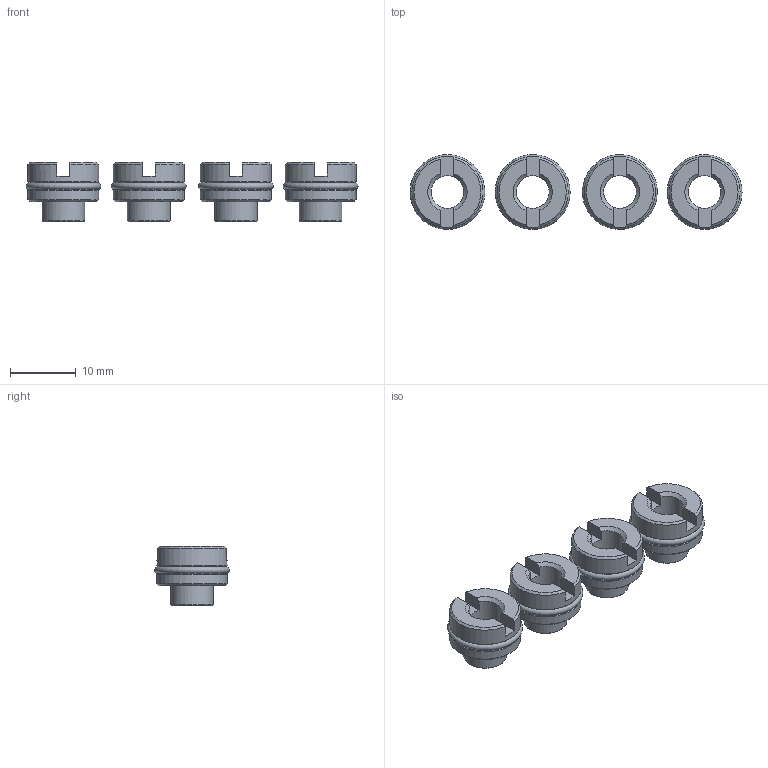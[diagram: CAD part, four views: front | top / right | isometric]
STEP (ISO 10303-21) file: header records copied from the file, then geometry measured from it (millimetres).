
FILE_DESCRIPTION(/* description */ (''),/* implementation_level */ '2;1');
FILE_NAME(/* name */ 'ZG-GE-M6_Rev.1.01.stp',/* time_stamp */ '2026-03-17T12:14:37+01:00',/* author */ ('ysplieth'),/* organization */ (''),/* preprocessor_version */ 'ST-DEVELOPER v20.1',/* originating_system */ 'Autodesk Inventor 2026',/* authorisation */ '');
FILE_SCHEMA (('AUTOMOTIVE_DESIGN { 1 0 10303 214 3 1 1 }'));
Length unit declared in the file: millimetre
Products named in the file (1): Bauteil8
Bounding box: 50.55 x 11.4 x 9 mm (x, y, z)
Volume: 1751.7 mm3; surface area: 2722.8 mm2
Topology: 8 solids, 8 shells, 108 faces, 260 edges, 168 vertices
Faces by surface type: plane 48, cone 36, cylinder 20, torus 4
Full cylindrical faces by diameter (mm): 5 x4, 6.5 x4, 9.2 x4, 10.8 x8
Entity records: 3342 total; most frequent: CARTESIAN_POINT 601, DIRECTION 570, ORIENTED_EDGE 520, EDGE_CURVE 260, AXIS2_PLACEMENT_3D 233, VERTEX_POINT 168, CIRCLE 124, EDGE_LOOP 124
